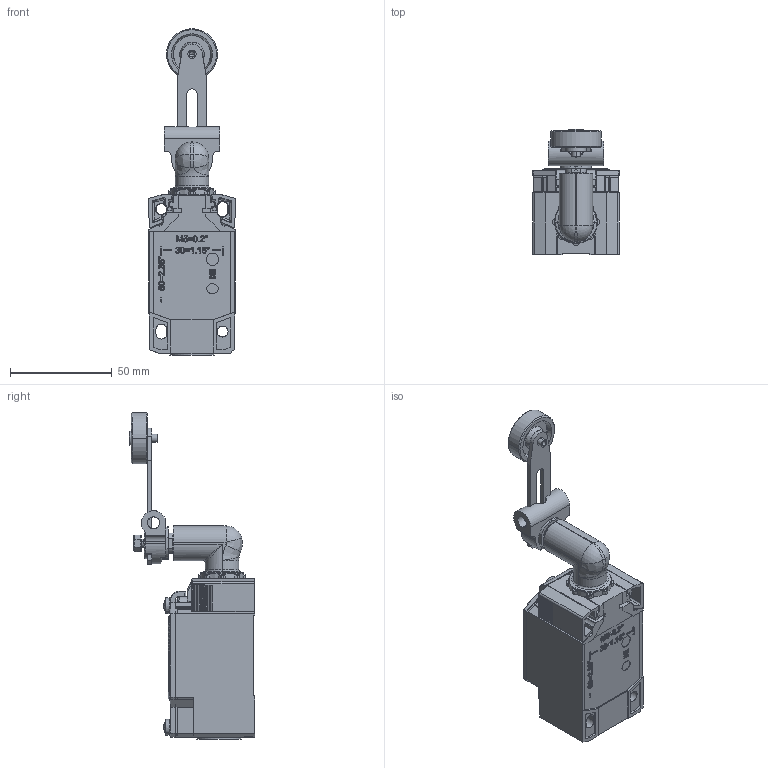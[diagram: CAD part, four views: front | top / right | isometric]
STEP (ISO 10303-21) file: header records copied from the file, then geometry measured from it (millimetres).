
FILE_DESCRIPTION((''),'2;1');
FILE_NAME('0000310224_ASM','2019-10-29T14:43:31',('Yvonne.Storm'),(''),'CREO PARAMETRIC BY PTC INC, 2018190','CREO PARAMETRIC BY PTC INC, 2018190','');
FILE_SCHEMA(('AUTOMOTIVE_DESIGN { 1 0 10303 214 1 1 1 1 }'));
Products named in the file (3): MN78_GEHUSE_O_EINR0; IN73_MN78_AVK_EINR; 0000310224_ASM
Assembly tree (2 placements, depth 2):
  0000310224_ASM
    MN78_GEHUSE_O_EINR0
    IN73_MN78_AVK_EINR
Bounding box: 42.48 x 61.52 x 160.11 mm (x, y, z)
Volume: 129766.7 mm3; surface area: 40614.1 mm2
Topology: 4 solids, 4 shells, 3885 faces, 10050 edges, 6209 vertices
Faces by surface type: plane 1391, cylinder 1007, bspline 729, extrusion 263, torus 179, cone 175, sphere 141
Entity records: 226018 total; most frequent: CARTESIAN_POINT 77602, ORIENTED_EDGE 20072, DIRECTION 15219, PRESENTATION_STYLE_ASSIGNMENT 14064, STYLED_ITEM 10318, CURVE_STYLE 10299, EDGE_CURVE 10036, VERTEX_POINT 6209
